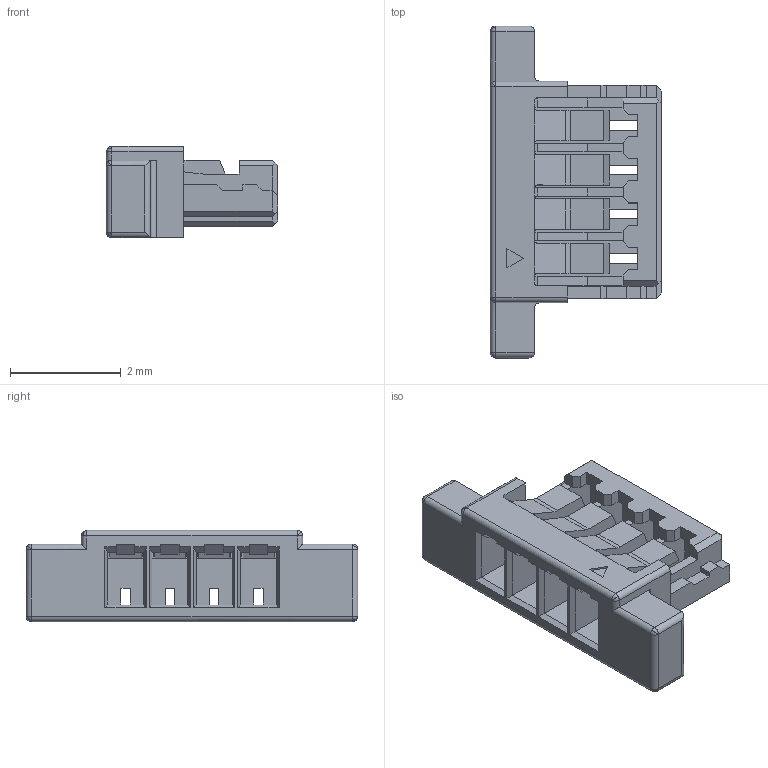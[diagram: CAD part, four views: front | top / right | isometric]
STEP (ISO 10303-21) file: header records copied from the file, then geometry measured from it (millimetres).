
FILE_DESCRIPTION((''),'2;1');
FILE_NAME('SCT0801H-04','2023-04-10T17:03:18',('Administrator'),(''),'CREO PARAMETRIC BY PTC INC, 2018050','CREO PARAMETRIC BY PTC INC, 2018050','');
FILE_SCHEMA(('CONFIG_CONTROL_DESIGN'));
Length unit declared in the file: millimetre
Products named in the file (1): SCT0801H-04
Bounding box: 3.1 x 6 x 1.65 mm (x, y, z)
Volume: 10.5 mm3; surface area: 88.9 mm2
Topology: 1 solids, 1 shells, 274 faces, 747 edges, 454 vertices
Faces by surface type: plane 230, cylinder 32, sphere 12
Entity records: 8453 total; most frequent: CARTESIAN_POINT 1589, ORIENTED_EDGE 1474, DIRECTION 1319, EDGE_CURVE 737, VECTOR 663, LINE 663, VERTEX_POINT 454, AXIS2_PLACEMENT_3D 328
